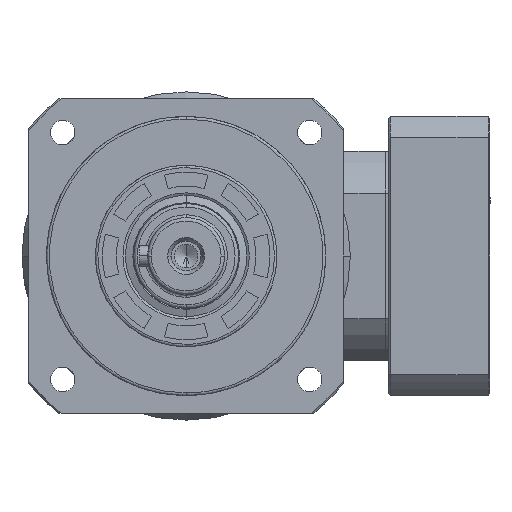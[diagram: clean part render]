
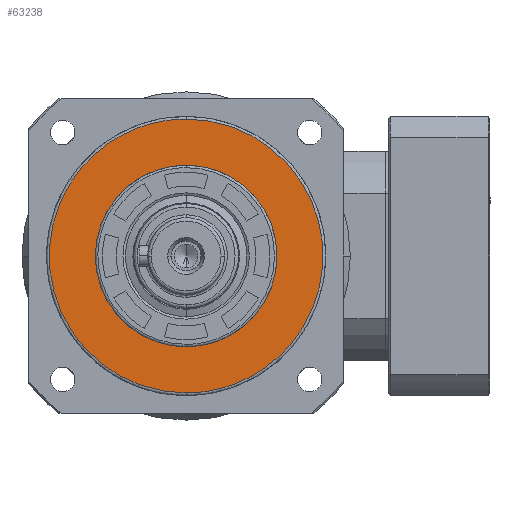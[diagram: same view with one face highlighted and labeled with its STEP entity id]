
A CAD part, left-side view. The second image highlights one B-rep face of the part: STEP entity #63238.
In plain terms, the highlighted planar face has unit normal (-1, 0, 0).
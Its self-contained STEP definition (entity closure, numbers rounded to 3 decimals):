
#162 = CIRCLE ( 'NONE', #8695, 26. ) ;
#2066 = VERTEX_POINT ( 'NONE', #18577 ) ;
#2481 = VERTEX_POINT ( 'NONE', #8252 ) ;
#4218 = DIRECTION ( 'NONE',  ( 0., 0., 1. ) ) ;
#4242 = VERTEX_POINT ( 'NONE', #55255 ) ;
#6227 = DIRECTION ( 'NONE',  ( -1., 0., 0. ) ) ;
#8252 = CARTESIAN_POINT ( 'NONE',  ( 0., 2.032, -39.2 ) ) ;
#8266 = CARTESIAN_POINT ( 'NONE',  ( 0., 2.032, -39.2 ) ) ;
#8280 = FACE_BOUND ( 'NONE', #59742, .T. ) ;
#8695 = AXIS2_PLACEMENT_3D ( 'NONE', #35986, #6227, #41001 ) ;
#13709 = AXIS2_PLACEMENT_3D ( 'NONE', #63461, #33952, #4218 ) ;
#15661 = EDGE_CURVE ( 'NONE', #54125, #2481, #53659, .T. ) ;
#16910 =( BOUNDED_CURVE ( )  B_SPLINE_CURVE ( 3, ( #8266, #38035, #47993, #18170 ),
 .UNSPECIFIED., .F., .F. ) 
 B_SPLINE_CURVE_WITH_KNOTS ( ( 4, 4 ),
 ( 0., 1. ),
 .UNSPECIFIED. ) 
 CURVE ( )  GEOMETRIC_REPRESENTATION_ITEM ( )  RATIONAL_B_SPLINE_CURVE ( ( 1., 0.333, 0.333, 1. ) ) 
 REPRESENTATION_ITEM ( '' )  );
#18170 = CARTESIAN_POINT ( 'NONE',  ( 0., 2.032, 39.2 ) ) ;
#18540 = CARTESIAN_POINT ( 'NONE',  ( 0., 0., 0. ) ) ;
#18577 = CARTESIAN_POINT ( 'NONE',  ( 0., 2.032, -26. ) ) ;
#21413 = FACE_OUTER_BOUND ( 'NONE', #38548, .T. ) ;
#23587 = DIRECTION ( 'NONE',  ( 0., 0., -1. ) ) ;
#32025 = ORIENTED_EDGE ( 'NONE', *, *, #54246, .F. ) ;
#33952 = DIRECTION ( 'NONE',  ( -1., 0., 0. ) ) ;
#35986 = CARTESIAN_POINT ( 'NONE',  ( 0., 2.032, 0. ) ) ;
#37935 = AXIS2_PLACEMENT_3D ( 'NONE', #18540, #53332, #23587 ) ;
#38035 = CARTESIAN_POINT ( 'NONE',  ( 0., 80.431, -39.2 ) ) ;
#38548 = EDGE_LOOP ( 'NONE', ( #50649, #43841 ) ) ;
#41001 = DIRECTION ( 'NONE',  ( 0., 0., 1. ) ) ;
#42938 = EDGE_CURVE ( 'NONE', #2481, #54125, #16910, .T. ) ;
#43841 = ORIENTED_EDGE ( 'NONE', *, *, #15661, .F. ) ;
#44339 = EDGE_CURVE ( 'NONE', #4242, #2066, #162, .T. ) ;
#47993 = CARTESIAN_POINT ( 'NONE',  ( 0., 80.431, 39.2 ) ) ;
#49422 = CIRCLE ( 'NONE', #13709, 26. ) ;
#50632 = CARTESIAN_POINT ( 'NONE',  ( 0., 2.032, -39.2 ) ) ;
#50649 = ORIENTED_EDGE ( 'NONE', *, *, #42938, .F. ) ;
#50710 = CARTESIAN_POINT ( 'NONE',  ( 0., -76.368, -39.2 ) ) ;
#51116 = CARTESIAN_POINT ( 'NONE',  ( 0., -76.368, 39.2 ) ) ;
#52026 = CARTESIAN_POINT ( 'NONE',  ( 0., 2.032, 39.2 ) ) ;
#53110 = PLANE ( 'NONE',  #37935 ) ;
#53181 = ORIENTED_EDGE ( 'NONE', *, *, #44339, .F. ) ;
#53332 = DIRECTION ( 'NONE',  ( 1., 0., 0. ) ) ;
#53659 =( BOUNDED_CURVE ( )  B_SPLINE_CURVE ( 3, ( #52026, #51116, #50710, #50632 ),
 .UNSPECIFIED., .F., .T. ) 
 B_SPLINE_CURVE_WITH_KNOTS ( ( 4, 4 ),
 ( 0., 1. ),
 .UNSPECIFIED. ) 
 CURVE ( )  GEOMETRIC_REPRESENTATION_ITEM ( )  RATIONAL_B_SPLINE_CURVE ( ( 1., 0.333, 0.333, 1. ) ) 
 REPRESENTATION_ITEM ( '' )  );
#54125 = VERTEX_POINT ( 'NONE', #56413 ) ;
#54246 = EDGE_CURVE ( 'NONE', #2066, #4242, #49422, .T. ) ;
#55255 = CARTESIAN_POINT ( 'NONE',  ( 0., 2.032, 26. ) ) ;
#56413 = CARTESIAN_POINT ( 'NONE',  ( 0., 2.032, 39.2 ) ) ;
#59742 = EDGE_LOOP ( 'NONE', ( #53181, #32025 ) ) ;
#63238 = ADVANCED_FACE ( 'NONE', ( #21413, #8280 ), #53110, .F. ) ;
#63461 = CARTESIAN_POINT ( 'NONE',  ( 0., 2.032, 0. ) ) ;
